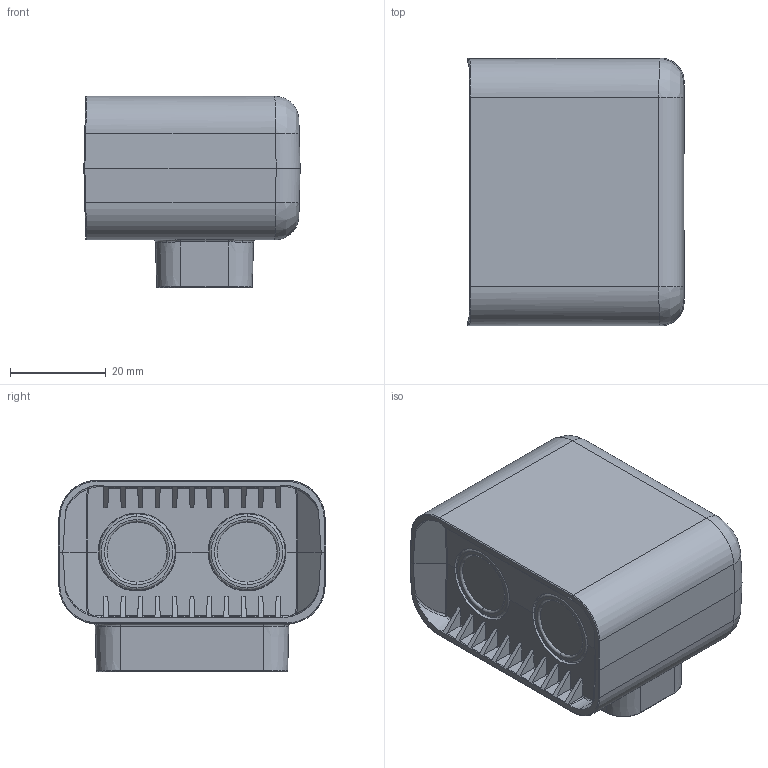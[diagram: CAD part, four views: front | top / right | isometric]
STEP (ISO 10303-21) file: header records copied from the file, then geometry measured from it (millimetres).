
FILE_DESCRIPTION((''),'2;1');
FILE_NAME('USBETA_ASM_ASM','2019-06-25T',('Administrator'),(''),'PRO/ENGINEER BY PARAMETRIC TECHNOLOGY CORPORATION, 2007450','PRO/ENGINEER BY PARAMETRIC TECHNOLOGY CORPORATION, 2007450','');
FILE_SCHEMA(('AUTOMOTIVE_DESIGN_CC2 { 1 2 10303 214 -1 1 5 2 }'));
Length unit declared in the file: millimetre
Products named in the file (21): BOARD_STEP_ANY_1; HC-SR04_PCB__1__STEP_ANY_ASM_1_ASM; USPCBA_ANY_ASM_1_ASM; USCA_1; USCA-2; USCA_2_ANY_ASM_1_ASM; RJ45-5722; PRT0010_1; PRT0008_1; PRT0007_1; PRT0002_1; PRT0003_1; PRT0004_1; PRT0005_1; ASM0006_ASM_1_ASM; PRT0011_1; PRT0009_1; ASM0005_ASM_1_ASM; USBETA_ANY_ASM_2_ASM; USBETA_ASM_1_ASM; USBETA_ASM_ASM
Assembly tree (22 placements, depth 6):
  USBETA_ASM_ASM
    USBETA_ASM_1_ASM
      USBETA_ANY_ASM_2_ASM
        USPCBA_ANY_ASM_1_ASM
          HC-SR04_PCB__1__STEP_ANY_ASM_1_ASM
            BOARD_STEP_ANY_1
        USCA_2_ANY_ASM_1_ASM
          USCA_1
          USCA-2
        RJ45-5722
        ASM0005_ASM_1_ASM
          PRT0010_1
          PRT0008_1  x2
          PRT0007_1
          ASM0006_ASM_1_ASM  x2
            PRT0002_1
            PRT0003_1
            PRT0004_1
            PRT0005_1
          PRT0011_1
          PRT0009_1
Bounding box: 45.22 x 56 x 40 mm (x, y, z)
Volume: 27029.7 mm3; surface area: 37047.2 mm2
Topology: 18 solids, 18 shells, 1995 faces, 5563 edges, 3651 vertices
Faces by surface type: plane 1223, cylinder 523, cone 160, torus 47, bspline 39, extrusion 3
Entity records: 85748 total; most frequent: CARTESIAN_POINT 13855, ORIENTED_EDGE 10782, DIRECTION 10359, PRESENTATION_STYLE_ASSIGNMENT 5838, EDGE_CURVE 5391, STYLED_ITEM 5305, CURVE_STYLE 5291, VECTOR 3745
